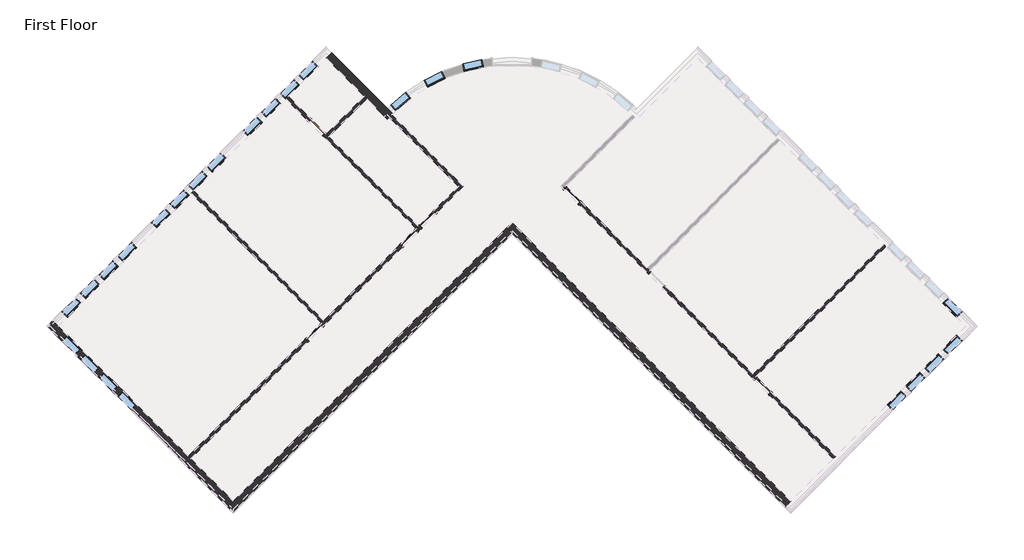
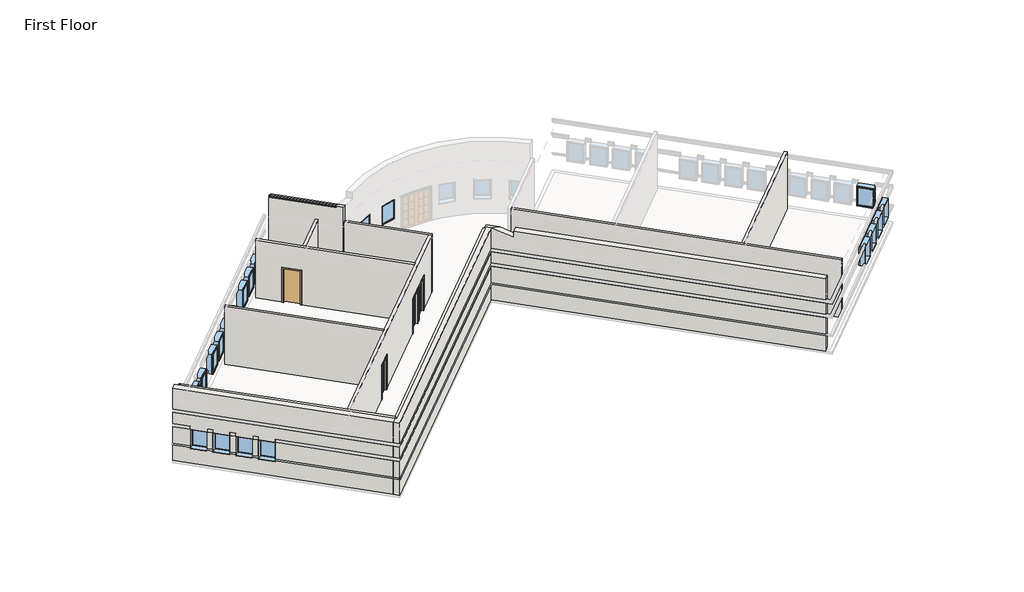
# One storey, part 1 of 4: 24 windows, 11 walls, 6 doors.
"""IFC4 building model written with IfcOpenShell, lengths in millimetres."""

from ifc_helpers import new_model, si_unit, frame, origin, origin_with_axes, place, context, project, spatial, polyline, circle_curve, ellipse_curve, outline, extrude, faceted_brep, transform, mapped, element, save
from ifc_brep_helpers import plane_surface, cylinder_surface, revolved_surface, advanced_brep
from components import door_f9494b7c, door_b81abb0e, door_5f5b55da, window_15c49d37, window_0e2fc6ce

model = new_model("IFC4")

# Units and contexts
model_context = context("Model", 3, world=origin())
ifc_project = project(units=[si_unit("LENGTHUNIT", "METRE", prefix="MILLI")], contexts=[model_context])

# Site, building, storey
site = spatial("IfcSite", under=ifc_project)
building = spatial("IfcBuilding", under=site)
storey = spatial("IfcBuildingStorey", under=building, Name="First Floor", Elevation=0.0)

# Doors
placement = place(None, origin())
door_shape = door_f9494b7c(model_context)
element("IfcDoor", 1, ObjectType="Single-Flush : 36\" x 84\"", at=placement, inside=storey, context=model_context, shape_type="MappedRepresentation", body=[
    mapped(door_shape, transform((-11920.1265343, 7875.9588464, 0.0), x_axis=(0.7071067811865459, -0.7071067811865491, 0.0), y_axis=(0.7071067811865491, 0.7071067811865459, 0.0), z_axis=(0.0, 0.0, 1.0))),
])
door_2_shape = door_b81abb0e(model_context)
element("IfcDoor", 2, ObjectType="Single-Glass 1 : 36\" x 84\"", at=placement, inside=storey, context=model_context, shape_type="MappedRepresentation", body=[
    mapped(door_2_shape, transform((-12027.7718255, -1647.4849877, 0.0), x_axis=(0.7071067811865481, 0.7071067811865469, 0.0), y_axis=(-0.7071067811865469, 0.7071067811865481, 0.0), z_axis=(0.0, 0.0, 1.0))),
])
element("IfcDoor", 3, ObjectType="Single-Glass 1 : 36\" x 84\"", at=placement, inside=storey, context=model_context, shape_type="MappedRepresentation", body=[
    mapped(door_2_shape, transform((-7643.2795567, 2737.0072811, 0.0), x_axis=(0.7071067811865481, 0.7071067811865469, 0.0), y_axis=(-0.7071067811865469, 0.7071067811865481, 0.0), z_axis=(0.0, 0.0, 1.0))),
])
door_3_shape = door_5f5b55da(model_context)
element("IfcDoor", 4, ObjectType="Single-Glass 1 : 36\" x 84\"", at=placement, inside=storey, context=model_context, shape_type="MappedRepresentation", body=[
    mapped(door_3_shape, transform((-6781.1749691, 3599.1118687, 0.0), x_axis=(-0.7071067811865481, -0.7071067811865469, 0.0), y_axis=(0.7071067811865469, -0.7071067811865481, 0.0), z_axis=(0.0, 0.0, 1.0))),
])
element("IfcDoor", 5, ObjectType="Single-Glass 1 : 36\" x 84\"", at=placement, inside=storey, context=model_context, shape_type="MappedRepresentation", body=[
    mapped(door_3_shape, transform((-66.4240191, 4710.6541283, 0.0), x_axis=(-0.7071067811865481, 0.7071067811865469, 0.0), y_axis=(-0.7071067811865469, -0.7071067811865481, 0.0), z_axis=(0.0, 0.0, 1.0))),
])
element("IfcDoor", 6, ObjectType="Single-Glass 1 : 36\" x 84\"", at=placement, inside=storey, context=model_context, shape_type="MappedRepresentation", body=[
    mapped(door_3_shape, transform((8770.3835686, -4126.1534594, 0.0), x_axis=(-0.7071067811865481, 0.7071067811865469, 0.0), y_axis=(-0.7071067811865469, -0.7071067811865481, 0.0), z_axis=(0.0, 0.0, 1.0))),
])

# Walls
element("IfcWall", 7, ObjectType="Exterior - Split Face and CMU on Mtl. Stud", at=placement, inside=storey, context=model_context, shape_type="Brep", body=[
    faceted_brep([(10063.54045, -9480.6311716, 0.0), (-2868.0283643, 3450.9376427, 0.0), (-2868.0283643, 3450.9376427, 4454.525), (-2369.6241496, 2952.533428, 4454.525), (-1756.7216693, 2339.6309478, 4165.6), (-1756.7216693, 2339.6309478, 4572.0), (10063.54045, -9480.6311716, 4572.0), (-3117.2304717, 3201.7355354, 0.0), (-2868.0283643, 2952.533428, 0.0), (9814.3383427, -9729.833279, 0.0), (9814.3383427, -9729.833279, 1016.0), (-2868.0283643, 2952.533428, 1016.0), (-2933.1352212, 3017.6402849, 1016.0), (-2933.1352212, 3017.6402849, 1085.85), (-2868.0283643, 2952.533428, 1085.85), (9814.3383427, -9729.833279, 1085.85), (9814.3383427, -9729.833279, 2133.6), (-2868.0283643, 2952.533428, 2133.6), (-2933.1352212, 3017.6402849, 2133.6), (-2933.1352212, 3017.6402849, 2336.8), (-2868.0283643, 2952.533428, 2336.8), (9814.3383427, -9729.833279, 2336.8), (9814.3383427, -9729.833279, 3048.0), (-2868.0283643, 2952.533428, 3048.0), (-2933.1352212, 3017.6402849, 3048.0), (-2933.1352212, 3017.6402849, 3251.2), (-2868.0283643, 2952.533428, 3251.2), (9814.3383427, -9729.833279, 3251.2), (9814.3383427, -9729.833279, 4572.0), (-2005.9237767, 2090.4288404, 4572.0), (-2005.9237767, 2090.4288404, 4165.6), (-2868.0283643, 2952.533428, 4572.0), (-3117.2304717, 3201.7355354, 4572.0), (9879.4451996, -9664.7264221, 0.0), (-3052.1236148, 3266.8423923, 0.0), (9879.4451996, -9664.7264221, 3251.2), (9879.4451996, -9664.7264221, 3048.0), (9879.4451996, -9664.7264221, 2336.8), (9879.4451996, -9664.7264221, 2133.6), (9879.4451996, -9664.7264221, 1085.85), (9879.4451996, -9664.7264221, 1016.0), (-2868.0283643, 3082.7471418, 1085.85), (-2868.0283643, 3082.7471418, 1016.0), (-2868.0283643, 3082.7471418, 2133.6), (-2868.0283643, 3082.7471418, 2336.8), (-2868.0283643, 3082.7471418, 3048.0), (-2868.0283643, 3082.7471418, 3251.2)], [[[0, 1, 2, 3, 4, 5, 6]], [[7, 8, 9, 10, 11, 12, 13, 14, 15, 16, 17, 18, 19, 20, 21, 22, 23, 24, 25, 26, 27, 28, 29, 30, 31, 32]], [[1, 0, 33, 34]], [[0, 6, 28, 27, 35, 36, 22, 21, 37, 38, 16, 15, 39, 40, 10, 9, 33]], [[9, 8, 7, 34, 33]], [[2, 1, 34, 7, 32]], [[28, 6, 5, 29]], [[29, 5, 4, 30]], [[30, 4, 3, 31]], [[2, 32, 31, 3]], [[13, 41, 39, 15, 14]], [[40, 42, 12, 11, 10]], [[41, 42, 40, 39]], [[42, 41, 13, 12]], [[38, 43, 18, 17, 16]], [[19, 44, 37, 21, 20]], [[44, 43, 38, 37]], [[43, 44, 19, 18]], [[36, 45, 24, 23, 22]], [[25, 46, 35, 27, 26]], [[46, 45, 36, 35]], [[45, 46, 25, 24]]]),
])
element("IfcWall", 8, ObjectType="Exterior - Split Face and CMU on Mtl. Stud", at=placement, inside=storey, context=model_context, shape_type="Brep", body=[
    faceted_brep([(-3117.2304717, 3201.7355354, 0.0), (-15799.5971786, -9480.6311716, 0.0), (-16048.799286, -9729.833279, 0.0), (-16048.799286, -9729.833279, 1016.0), (-15983.6924291, -9664.7264221, 1016.0), (-15983.6924291, -9664.7264221, 1085.85), (-16048.799286, -9729.833279, 1085.85), (-16048.799286, -9729.833279, 2133.6), (-15983.6924291, -9664.7264221, 2133.6), (-15983.6924291, -9664.7264221, 2336.8), (-16048.799286, -9729.833279, 2336.8), (-16048.799286, -9729.833279, 3048.0), (-15983.6924291, -9664.7264221, 3048.0), (-15983.6924291, -9664.7264221, 3251.2), (-16048.799286, -9729.833279, 3251.2), (-16048.799286, -9729.833279, 4572.0), (-15799.5971786, -9480.6311716, 4572.0), (-3135.1909839, 3183.7750231, 4572.0), (-3117.2304717, 3201.7355354, 4572.0), (-15799.5971786, -9979.0353863, 0.0), (-2868.0283643, 2952.533428, 0.0), (-2868.0283643, 2952.533428, 1016.0), (-15799.5971786, -9979.0353863, 1016.0), (-15799.5971786, -9979.0353863, 1085.85), (-2868.0283643, 2952.533428, 1085.85), (-2868.0283643, 2952.533428, 2133.6), (-15799.5971786, -9979.0353863, 2133.6), (-15799.5971786, -9979.0353863, 2336.8), (-2868.0283643, 2952.533428, 2336.8), (-2868.0283643, 2952.533428, 3048.0), (-15799.5971786, -9979.0353863, 3048.0), (-15799.5971786, -9979.0353863, 4572.0), (-15799.5971786, -9979.0353863, 3251.2), (-2868.0283643, 2952.533428, 3251.2), (-2868.0283643, 2952.533428, 4572.0), (-2885.9888765, 2934.5729158, 4572.0), (-2933.1352212, 3017.6402849, 0.0), (-15864.7040355, -9913.9285294, 0.0), (-2933.1352212, 3017.6402849, 3251.2), (-2933.1352212, 3017.6402849, 3048.0), (-2933.1352212, 3017.6402849, 2336.8), (-2933.1352212, 3017.6402849, 2133.6), (-2933.1352212, 3017.6402849, 1085.85), (-2933.1352212, 3017.6402849, 1016.0), (-15799.5971786, -9848.8216726, 1085.85), (-15799.5971786, -9848.8216726, 1016.0), (-15799.5971786, -9848.8216726, 2133.6), (-15799.5971786, -9848.8216726, 2336.8), (-15799.5971786, -9848.8216726, 3048.0), (-15799.5971786, -9848.8216726, 3251.2)], [[[0, 1, 2, 3, 4, 5, 6, 7, 8, 9, 10, 11, 12, 13, 14, 15, 16, 17, 18]], [[19, 20, 21, 22]], [[23, 24, 25, 26]], [[27, 28, 29, 30]], [[31, 32, 33, 34, 35]], [[2, 1, 0, 36, 37]], [[0, 18, 34, 33, 38, 39, 29, 28, 40, 41, 25, 24, 42, 43, 21, 20, 36]], [[20, 19, 37, 36]], [[2, 37, 19, 22, 3]], [[6, 23, 26, 7]], [[10, 27, 30, 11]], [[15, 14, 32, 31]], [[5, 44, 42, 24, 23, 6]], [[43, 45, 4, 3, 22, 21]], [[44, 45, 43, 42]], [[45, 44, 5, 4]], [[41, 46, 8, 7, 26, 25]], [[9, 47, 40, 28, 27, 10]], [[47, 46, 41, 40]], [[46, 47, 9, 8]], [[39, 48, 12, 11, 30, 29]], [[13, 49, 38, 33, 32, 14]], [[49, 48, 39, 38]], [[48, 49, 13, 12]], [[34, 18, 17, 16, 15, 31, 35]]]),
    faceted_brep([(-15799.5971786, -9480.6311716, 4689.475), (-3366.432579, 2952.533428, 4689.475), (-3260.200231, 3058.765776, 4639.3965909), (-15799.5971786, -9480.6311716, 4639.3965909), (-15874.9878772, -9556.0218702, 4653.9354839), (-3215.6511819, 2952.533428, 4653.9354839), (-15799.5971786, -9631.4125687, 4653.9354839)], [[[0, 1, 2, 3, 4]], [[2, 1, 5]], [[1, 0, 6, 5]], [[0, 4, 6]], [[6, 3, 2, 5]], [[3, 6, 4]]]),
])
element("IfcWall", 9, ObjectType="Exterior - Split Face and CMU on Mtl. Stud", at=placement, inside=storey, context=model_context, shape_type="Brep", body=[
    faceted_brep([(-23922.2388402, -1357.9895101, 4689.475), (-15799.5971786, -9480.6311716, 4689.475), (-15799.5971786, -9480.6311716, 4639.3965909), (-23922.2388402, -1357.9895101, 4639.3965909), (-23997.6295387, -1282.5988115, 4653.9354839), (-15874.9878772, -9556.0218702, 4653.9354839), (-24073.0202373, -1357.9895101, 4653.9354839)], [[[0, 1, 2, 3, 4]], [[2, 1, 5]], [[1, 0, 6, 5]], [[0, 4, 6]], [[6, 3, 2, 5]], [[3, 6, 4]]]),
    faceted_brep([(-15799.5971786, -9480.6311716, 0.0), (-17775.2535253, -7504.974825, 0.0), (-17885.2616628, -7394.9666875, 0.0), (-23922.2388402, -1357.9895101, 0.0), (-24171.4409475, -1108.7874027, 0.0), (-24171.4409475, -1108.7874027, 1016.0), (-24106.3340906, -1173.8942596, 1016.0), (-24106.3340906, -1173.8942596, 1085.85), (-24171.4409475, -1108.7874027, 1085.85), (-24171.4409475, -1108.7874027, 2133.6), (-24106.3340906, -1173.8942596, 2133.6), (-24106.3340906, -1173.8942596, 2336.8), (-24171.4409475, -1108.7874027, 2336.8), (-24171.4409475, -1108.7874027, 3048.0), (-24106.3340906, -1173.8942596, 3048.0), (-24106.3340906, -1173.8942596, 3251.2), (-24171.4409475, -1108.7874027, 3251.2), (-24171.4409475, -1108.7874027, 4572.0), (-23922.2388402, -1357.9895101, 4572.0), (-15799.5971786, -9480.6311716, 4572.0), (-20921.7107637, -4358.5175865, 2133.6), (-20921.7107637, -4358.5175865, 914.4), (-20275.132323, -5005.0960273, 914.4), (-20275.132323, -5005.0960273, 2133.6), (-21783.8153513, -3496.4129989, 2133.6), (-21783.8153513, -3496.4129989, 914.4), (-21137.2369106, -4142.9914396, 914.4), (-21137.2369106, -4142.9914396, 2133.6), (-22645.9199389, -2634.3084113, 2133.6), (-22645.9199389, -2634.3084113, 914.4), (-21999.3414982, -3280.886852, 914.4), (-21999.3414982, -3280.886852, 2133.6), (-23508.0245266, -1772.2038237, 2133.6), (-23508.0245266, -1772.2038237, 914.4), (-22861.4460859, -2418.7822644, 914.4), (-22861.4460859, -2418.7822644, 2133.6), (-24420.6430549, -1357.9895101, 0.0), (-16048.799286, -9729.833279, 0.0), (-16048.799286, -9729.833279, 1016.0), (-20524.3344303, -5254.2981346, 1016.0), (-20524.3344303, -5254.2981346, 914.4), (-21170.9128711, -4607.7196939, 914.4), (-21170.9128711, -4607.7196939, 1016.0), (-21386.439018, -4392.193547, 1016.0), (-21386.439018, -4392.193547, 914.4), (-22033.0174587, -3745.6151063, 914.4), (-22033.0174587, -3745.6151063, 1016.0), (-22248.5436056, -3530.0889594, 1016.0), (-22248.5436056, -3530.0889594, 914.4), (-22895.1220463, -2883.5105187, 914.4), (-22895.1220463, -2883.5105187, 1016.0), (-23110.6481932, -2667.9843718, 1016.0), (-23110.6481932, -2667.9843718, 914.4), (-23757.2266339, -2021.405931, 914.4), (-23757.2266339, -2021.405931, 1016.0), (-24420.6430549, -1357.9895101, 1016.0), (-21170.9128711, -4607.7196939, 2133.6), (-20524.3344303, -5254.2981346, 2133.6), (-20524.3344303, -5254.2981346, 2336.8), (-16048.799286, -9729.833279, 2336.8), (-16048.799286, -9729.833279, 3048.0), (-24420.6430549, -1357.9895101, 3048.0), (-24420.6430549, -1357.9895101, 2336.8), (-23757.2266339, -2021.405931, 2336.8), (-23757.2266339, -2021.405931, 2133.6), (-23110.6481932, -2667.9843718, 2133.6), (-23110.6481932, -2667.9843718, 2336.8), (-22895.1220463, -2883.5105187, 2336.8), (-22895.1220463, -2883.5105187, 2133.6), (-22248.5436056, -3530.0889594, 2133.6), (-22248.5436056, -3530.0889594, 2336.8), (-22033.0174587, -3745.6151063, 2336.8), (-22033.0174587, -3745.6151063, 2133.6), (-21386.439018, -4392.193547, 2133.6), (-21386.439018, -4392.193547, 2336.8), (-21170.9128711, -4607.7196939, 2336.8), (-20524.3344303, -5254.2981346, 1085.85), (-16048.799286, -9729.833279, 1085.85), (-16048.799286, -9729.833279, 2133.6), (-21170.9128711, -4607.7196939, 1085.85), (-21386.439018, -4392.193547, 1085.85), (-22033.0174587, -3745.6151063, 1085.85), (-22248.5436056, -3530.0889594, 1085.85), (-22895.1220463, -2883.5105187, 1085.85), (-23110.6481932, -2667.9843718, 1085.85), (-23757.2266339, -2021.405931, 1085.85), (-24420.6430549, -1357.9895101, 2133.6), (-24420.6430549, -1357.9895101, 1085.85), (-24420.6430549, -1357.9895101, 4572.0), (-24420.6430549, -1357.9895101, 3251.2), (-16048.799286, -9729.833279, 3251.2), (-16048.799286, -9729.833279, 4572.0), (-15983.6924291, -9664.7264221, 3251.2), (-15983.6924291, -9664.7264221, 3048.0), (-15983.6924291, -9664.7264221, 2336.8), (-15983.6924291, -9664.7264221, 2133.6), (-15983.6924291, -9664.7264221, 1085.85), (-15983.6924291, -9664.7264221, 1016.0), (-21105.8060142, -4542.612837, 2133.6), (-21105.8060142, -4542.612837, 1085.85), (-21105.8060142, -4542.612837, 1016.0), (-20459.2275735, -5189.1912777, 1016.0), (-20459.2275735, -5189.1912777, 1085.85), (-20459.2275735, -5189.1912777, 2133.6), (-21967.9106018, -3680.5082494, 2133.6), (-21967.9106018, -3680.5082494, 1085.85), (-21967.9106018, -3680.5082494, 1016.0), (-21321.3321611, -4327.0866901, 1016.0), (-21321.3321611, -4327.0866901, 1085.85), (-21321.3321611, -4327.0866901, 2133.6), (-22830.0151894, -2818.4036618, 2133.6), (-22830.0151894, -2818.4036618, 1085.85), (-22830.0151894, -2818.4036618, 1016.0), (-22183.4367487, -3464.9821025, 1016.0), (-22183.4367487, -3464.9821025, 1085.85), (-22183.4367487, -3464.9821025, 2133.6), (-23692.119777, -1956.2990742, 2133.6), (-23692.119777, -1956.2990742, 1085.85), (-23692.119777, -1956.2990742, 1016.0), (-23045.5413363, -2602.8775149, 1016.0), (-23045.5413363, -2602.8775149, 1085.85), (-23045.5413363, -2602.8775149, 2133.6), (-24290.4293411, -1357.9895101, 1085.85), (-24290.4293411, -1357.9895101, 1016.0), (-20459.2275735, -5189.1912777, 2133.6), (-20459.2275735, -5189.1912777, 2336.8), (-21105.8060142, -4542.612837, 2133.6), (-21105.8060142, -4542.612837, 2336.8), (-21321.3321611, -4327.0866901, 2336.8), (-21321.3321611, -4327.0866901, 2133.6), (-21967.9106018, -3680.5082494, 2133.6), (-21967.9106018, -3680.5082494, 2336.8), (-22183.4367487, -3464.9821025, 2336.8), (-22183.4367487, -3464.9821025, 2133.6), (-22830.0151894, -2818.4036618, 2133.6), (-22830.0151894, -2818.4036618, 2336.8), (-23045.5413363, -2602.8775149, 2336.8), (-23045.5413363, -2602.8775149, 2133.6), (-23692.119777, -1956.2990742, 2133.6), (-23692.119777, -1956.2990742, 2336.8), (-24290.4293411, -1357.9895101, 2133.6), (-24290.4293411, -1357.9895101, 2336.8), (-24290.4293411, -1357.9895101, 3048.0), (-24290.4293411, -1357.9895101, 3251.2)], [[[0, 1, 2, 3, 4, 5, 6, 7, 8, 9, 10, 11, 12, 13, 14, 15, 16, 17, 18, 19], [20, 21, 22, 23], [24, 25, 26, 27], [28, 29, 30, 31], [32, 33, 34, 35]], [[36, 37, 38, 39, 40, 41, 42, 43, 44, 45, 46, 47, 48, 49, 50, 51, 52, 53, 54, 55]], [[56, 57, 58, 59, 60, 61, 62, 63, 64, 65, 66, 67, 68, 69, 70, 71, 72, 73, 74, 75]], [[57, 76, 77, 78]], [[79, 56, 73, 80]], [[81, 72, 69, 82]], [[83, 68, 65, 84]], [[85, 64, 86, 87]], [[88, 89, 90, 91]], [[37, 0, 19, 91, 90, 92, 93, 60, 59, 94, 95, 78, 77, 96, 97, 38]], [[4, 36, 55, 5]], [[8, 87, 86, 9]], [[12, 62, 61, 13]], [[17, 16, 89, 88]], [[4, 3, 2, 1, 0, 37, 36]], [[21, 20, 98, 56, 79, 99, 100, 42, 41]], [[22, 21, 41, 40]], [[23, 22, 40, 39, 101, 102, 76, 57, 103]], [[20, 23, 103, 57, 56, 98]], [[25, 24, 104, 72, 81, 105, 106, 46, 45]], [[26, 25, 45, 44]], [[27, 26, 44, 43, 107, 108, 80, 73, 109]], [[24, 27, 109, 73, 72, 104]], [[29, 28, 110, 68, 83, 111, 112, 50, 49]], [[30, 29, 49, 48]], [[31, 30, 48, 47, 113, 114, 82, 69, 115]], [[28, 31, 115, 69, 68, 110]], [[33, 32, 116, 64, 85, 117, 118, 54, 53]], [[34, 33, 53, 52]], [[35, 34, 52, 51, 119, 120, 84, 65, 121]], [[32, 35, 121, 65, 64, 116]], [[102, 96, 77, 76]], [[97, 101, 39, 38]], [[96, 102, 101, 97]], [[108, 99, 79, 80]], [[100, 107, 43, 42]], [[99, 108, 107, 100]], [[114, 105, 81, 82]], [[106, 113, 47, 46]], [[105, 114, 113, 106]], [[120, 111, 83, 84]], [[112, 119, 51, 50]], [[111, 120, 119, 112]], [[122, 117, 85, 87, 8, 7]], [[118, 123, 6, 5, 55, 54]], [[117, 122, 123, 118]], [[123, 122, 7, 6]], [[124, 57, 78, 95]], [[58, 125, 94, 59]], [[57, 124, 125, 58]], [[125, 124, 95, 94]], [[126, 56, 75, 127]], [[128, 74, 73, 129]], [[56, 126, 129, 73]], [[126, 127, 128, 129]], [[127, 75, 74, 128]], [[130, 72, 71, 131]], [[132, 70, 69, 133]], [[72, 130, 133, 69]], [[130, 131, 132, 133]], [[131, 71, 70, 132]], [[134, 68, 67, 135]], [[136, 66, 65, 137]], [[68, 134, 137, 65]], [[134, 135, 136, 137]], [[135, 67, 66, 136]], [[138, 64, 63, 139]], [[64, 138, 140, 10, 9, 86]], [[138, 139, 141, 140]], [[139, 63, 62, 12, 11, 141]], [[140, 141, 11, 10]], [[93, 142, 14, 13, 61, 60]], [[15, 143, 92, 90, 89, 16]], [[143, 142, 93, 92]], [[142, 143, 15, 14]], [[19, 18, 17, 88, 91]]]),
])
element("IfcWall", 10, ObjectType="Exterior - Split Face and CMU on Mtl. Stud", at=placement, inside=storey, context=model_context, shape_type="AdvancedBrep", body=[
    advanced_brep(
    [(-8658.0122729, 8244.1131219, 0.0), (-8658.0122729, 8244.1131219, 4689.475), (-11489.0742405, 11075.1750895, 4689.475), (-11489.0742405, 11075.1750895, 4639.3965909), (-8911.6883314, 8497.7891804, 4639.3965909), (-8911.6883314, 8497.7891804, 4572.0), (-11489.0742405, 11075.1750895, 4572.0), (-11489.0742405, 11075.1750895, 0.0), (-9728.9440408, 9315.0448898, 0.0), (-9618.9359033, 9205.0367523, 0.0), (-8413.2817722, 8497.7868359, 4572.0), (-8413.2817722, 8497.7868359, 0.0), (-8662.486224, 8746.9912878, 0.0), (-11239.8721332, 11324.3771969, 0.0), (-11239.8721332, 11324.3771969, 1016.0), (-8662.486224, 8746.9912878, 1016.0), (-8597.3787742, 8681.8838379, 1016.0), (-8597.3787742, 8681.8838379, 1085.85), (-8662.486224, 8746.9912878, 1085.85), (-11239.8721332, 11324.3771969, 1085.85), (-11239.8721332, 11324.3771969, 2133.6), (-8662.486224, 8746.9912878, 2133.6), (-8597.3787742, 8681.8838379, 2133.6), (-8597.3787742, 8681.8838379, 2336.8), (-8662.486224, 8746.9912878, 2336.8), (-11239.8721332, 11324.3771969, 2336.8), (-11239.8721332, 11324.3771969, 3048.0), (-8662.486224, 8746.9912878, 3048.0), (-8597.3787742, 8681.8838379, 3048.0), (-8597.3787742, 8681.8838379, 3251.2), (-8662.486224, 8746.9912878, 3251.2), (-11239.8721332, 11324.3771969, 3251.2), (-11239.8721332, 11324.3771969, 4572.0), (-8662.486224, 8746.9912878, 4572.0), (-11304.9789901, 11259.27034, 3251.2), (-11304.9789901, 11259.27034, 3048.0), (-11304.9789901, 11259.27034, 2336.8), (-11304.9789901, 11259.27034, 2133.6), (-11304.9789901, 11259.27034, 1085.85), (-11304.9789901, 11259.27034, 1016.0), (-11413.683542, 11150.5657881, 4653.9354839), (-8557.7157352, 8350.8336041, 0.0), (-8449.0111375, 8462.1452813, 0.0), (-8836.2976328, 8573.179879, 4653.9354839), (-8662.3967205, 8616.6880705, 1085.85), (-8662.3967205, 8616.6880705, 1016.0), (-8662.3967205, 8616.6880705, 2336.8), (-8662.3967205, 8616.6880705, 2133.6), (-8662.3967205, 8616.6880705, 3251.2), (-8662.3967205, 8616.6880705, 3048.0)],
    [
        (0, 1),
        (1, 2),
        (2, 3),
        (3, 4),
        (4, 5),
        (5, 6),
        (6, 7),
        (7, 8),
        (8, 9),
        (9, 0),
        (10, 11),
        (11, 12),
        (12, 13),
        (13, 14),
        (14, 15),
        (15, 16),
        (16, 17),
        (17, 18),
        (18, 19),
        (19, 20),
        (20, 21),
        (21, 22),
        (22, 23),
        (23, 24),
        (24, 25),
        (25, 26),
        (26, 27),
        (27, 28),
        (28, 29),
        (29, 30),
        (30, 31),
        (31, 32),
        (32, 33),
        (33, 10),
        (13, 7),
        (6, 32),
        (31, 34),
        (34, 35),
        (35, 26),
        (25, 36),
        (36, 37),
        (37, 20),
        (19, 38),
        (38, 39),
        (39, 14),
        (2, 40),
        (40, 3),
        (0, 41, circle_curve(frame((-2868.0283643, 2903.1420194, 0.0), z_axis=(0.0, 0.0, -1.0), x_axis=(1.0, 0.0, 0.0)), 7877.175)),
        (41, 42, circle_curve(frame((-2868.0283643, 2903.1420194, 0.0), z_axis=(0.0, 0.0, -1.0), x_axis=(1.0, 0.0, 0.0)), 7877.175)),
        (42, 11, circle_curve(frame((-2868.0283643, 2903.1420194, 0.0), z_axis=(0.0, 0.0, -1.0), x_axis=(1.0, 0.0, 0.0)), 7877.175)),
        (10, 1, ellipse_curve(frame((-2868.0283643, 2903.1420194, 4583.6416667), z_axis=(0.2236067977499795, 0.22360679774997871, 0.9486832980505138), x_axis=(0.6708203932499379, 0.6708203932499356, -0.31622776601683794)), 8303.2715092, 7877.175)),
        (33, 43),
        (43, 40),
        (44, 45),
        (45, 39),
        (38, 44),
        (17, 44, circle_curve(frame((-2868.0283643, 2903.1420194, 1085.85), z_axis=(0.0, 0.0, 1.0), x_axis=(-0.7040995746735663, 0.7101012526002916, 0.0)), 8137.525)),
        (45, 16, circle_curve(frame((-2868.0283643, 2903.1420194, 1016.0), z_axis=(0.0, 0.0, -1.0), x_axis=(-0.7040995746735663, 0.7101012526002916, 0.0)), 8137.525)),
        (46, 47),
        (47, 37),
        (36, 46),
        (47, 22, circle_curve(frame((-2868.0283643, 2903.1420194, 2133.6), z_axis=(0.0, 0.0, -1.0), x_axis=(-0.7120553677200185, 0.70212331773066, 0.0)), 8137.525)),
        (46, 23, circle_curve(frame((-2868.0283643, 2903.1420194, 2336.8), z_axis=(0.0, 0.0, -1.0), x_axis=(-0.7120553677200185, 0.70212331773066, 0.0)), 8137.525)),
        (48, 49),
        (49, 35),
        (34, 48),
        (49, 28, circle_curve(frame((-2868.0283643, 2903.1420194, 3048.0), z_axis=(0.0, 0.0, -1.0), x_axis=(-0.7120553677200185, 0.70212331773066, 0.0)), 8137.525)),
        (48, 29, circle_curve(frame((-2868.0283643, 2903.1420194, 3251.2), z_axis=(0.0, 0.0, -1.0), x_axis=(-0.7120553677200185, 0.70212331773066, 0.0)), 8137.525)),
        (5, 33),
        (4, 43),
    ],
    [
        plane_surface(frame((-11738.2763479, 11324.3771969, 0.0), z_axis=(-0.7071067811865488, -0.7071067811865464, 0.0), x_axis=(0.7071067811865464, -0.7071067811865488, 0.0))),
        plane_surface(frame((-11489.0742405, 11573.5793042, 0.0), z_axis=(0.7071067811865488, 0.7071067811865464, 0.0), x_axis=(-0.7071067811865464, 0.7071067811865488, 0.0))),
        plane_surface(frame((-24171.4409475, -1607.1916175, 0.0), z_axis=(-0.7071067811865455, 0.7071067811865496, 0.0), x_axis=(0.7071067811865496, 0.7071067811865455, 0.0))),
        revolved_surface(polyline([(5009.146635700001, 2903.1420194, 0.0), (5009.146635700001, 2903.1420194, 7209.366666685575)]), (-2868.0283643, 2903.1420194, 0.0), (0.0, 0.0, -1.0)),
        plane_surface(frame((-1143.8191891, 2952.533428, 4165.6), z_axis=(0.2236067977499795, 0.22360679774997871, 0.9486832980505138), x_axis=(-0.7071067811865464, 0.7071067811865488, 0.0))),
        plane_surface(frame((-11364.4731869, 11448.9782506, 0.0), z_axis=(0.0, 0.0, -1.0), x_axis=(-0.7071067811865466, 0.7071067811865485, 0.0))),
        plane_surface(frame((-11489.0742405, 11443.3655905, 1016.0), z_axis=(0.7071067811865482, 0.7071067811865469, 0.0), x_axis=(0.7071067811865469, -0.7071067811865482, 0.0))),
        plane_surface(frame((-2868.0283643, 2903.1420194, 1085.85), z_axis=(0.0, 0.0, -1.0), x_axis=(-0.7040995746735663, 0.7101012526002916, 0.0))),
        plane_surface(frame((-2868.0283643, 2903.1420194, 1016.0), z_axis=(0.0, 0.0, 1.0), x_axis=(-0.7040995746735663, 0.7101012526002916, 0.0))),
        cylinder_surface(frame((-2868.0283643, 2903.1420194, 1016.0), z_axis=(0.0, 0.0, -1.0), x_axis=(-0.7040995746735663, 0.7101012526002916, 0.0)), 8137.525),
        plane_surface(frame((-11489.0742405, 11443.3655905, 2133.6), z_axis=(0.7071067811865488, 0.7071067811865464, 0.0), x_axis=(0.7071067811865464, -0.7071067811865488, 0.0))),
        plane_surface(frame((-2868.0283643, 2903.1420194, 2133.6), z_axis=(0.0, 0.0, 1.0), x_axis=(-0.7120553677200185, 0.70212331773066, 0.0))),
        cylinder_surface(frame((-2868.0283643, 2903.1420194, 2133.6), z_axis=(0.0, 0.0, -1.0), x_axis=(-0.7120553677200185, 0.70212331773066, 0.0)), 8137.525),
        plane_surface(frame((-2868.0283643, 2903.1420194, 2336.8), z_axis=(0.0, 0.0, -1.0), x_axis=(-0.7120553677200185, 0.70212331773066, 0.0))),
        plane_surface(frame((-11489.0742405, 11443.3655905, 3048.0), z_axis=(0.7071067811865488, 0.7071067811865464, 0.0), x_axis=(0.7071067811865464, -0.7071067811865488, 0.0))),
        plane_surface(frame((-2868.0283643, 2903.1420194, 3048.0), z_axis=(0.0, 0.0, 1.0), x_axis=(-0.7120553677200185, 0.70212331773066, 0.0))),
        cylinder_surface(frame((-2868.0283643, 2903.1420194, 3048.0), z_axis=(0.0, 0.0, -1.0), x_axis=(-0.7120553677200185, 0.70212331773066, 0.0)), 8137.525),
        plane_surface(frame((-2868.0283643, 2903.1420194, 3251.2), z_axis=(0.0, 0.0, -1.0), x_axis=(-0.7120553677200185, 0.70212331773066, 0.0))),
        plane_surface(frame((-24438.6035671, -1340.0289979, 4572.0), z_axis=(0.0, 0.0, 1.0), x_axis=(0.7071067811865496, 0.7071067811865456, 0.0))),
        plane_surface(frame((-8662.486224, 8746.9912878, 4185.7445793), z_axis=(-0.7071067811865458, 0.7071067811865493, 0.0), x_axis=(0.7071067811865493, 0.7071067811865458, 0.0))),
        plane_surface(frame((-11489.0742405, 11034.763937, 4635.5), z_axis=(0.0955394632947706, 0.09553946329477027, -0.9908301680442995), x_axis=(0.7071067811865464, -0.7071067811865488, 0.0))),
    ],
    [
        (0, [[1, 2, 3, 4, 5, 6, 7, 8, 9, 10]]),
        (1, [[11, 12, 13, 14, 15, 16, 17, 18, 19, 20, 21, 22, 23, 24, 25, 26, 27, 28, 29, 30, 31, 32, 33, 34]]),
        (2, [[35, -7, 36, -32, 37, 38, 39, -26, 40, 41, 42, -20, 43, 44, 45, -14]]),
        (2, [[-3, 46, 47]]),
        (3, [[48, 49, 50, -11, 51, -1]]),
        (4, [[-2, -51, -34, 52, 53, -46]]),
        (5, [[-50, -49, -48, -10, -9, -8, -35, -13, -12]]),
        (6, [[54, 55, -44, 56]]),
        (7, [[57, -56, -43, -19, -18]]),
        (8, [[-55, 58, -16, -15, -45]]),
        (9, [[-54, -57, -17, -58]]),
        (10, [[59, 60, -41, 61]]),
        (11, [[-60, 62, -22, -21, -42]]),
        (12, [[-59, 63, -23, -62]]),
        (13, [[-63, -61, -40, -25, -24]]),
        (14, [[64, 65, -38, 66]]),
        (15, [[-65, 67, -28, -27, -39]]),
        (16, [[-64, 68, -29, -67]]),
        (17, [[-68, -66, -37, -31, -30]]),
        (18, [[69, -33, -36, -6]]),
        (19, [[70, -52, -69, -5]]),
        (20, [[-70, -4, -47, -53]]),
    ],
),
])
element("IfcWall", 11, ObjectType="Interior - 6 1/8\" Partition (2-hr)", at=placement, inside=storey, context=model_context, shape_type="Brep", body=[
    faceted_brep([(-7374.9944051, 3115.3005702, 0.0), (-7322.2354004, 3168.0595749, 0.0), (-7212.2272629, 3278.0677124, 0.0), (-7159.4682582, 3330.8267171, 0.0), (-7049.4601207, 3220.8185796, 0.0), (-7264.9862676, 3005.2924327, 0.0), (-12296.0569771, -2025.7782768, 0.0), (-17775.2535253, -7504.974825, 0.0), (-17885.2616628, -7394.9666875, 0.0), (-12406.0651146, -1915.7701393, 0.0), (-7911.5647083, 2358.713992, 0.0), (-11649.4785364, -1379.1998361, 0.0), (-11759.4866739, -1269.1916986, 0.0), (-11706.7276692, -1216.4326939, 0.0), (-11596.7195317, -1106.4245564, 0.0), (-8021.5728458, 2468.7221295, 0.0), (-6512.8898174, 3977.4051578, 0.0), (-5348.5885532, 5141.7064221, 0.0), (-5238.5804157, 5031.6982846, 0.0), (-6402.88168, 3867.3970204, 0.0), (-17775.2535253, -7504.974825, 3657.6), (-5238.5804157, 5031.6982846, 3657.6), (-5348.5885532, 5141.7064221, 3657.6), (-7212.2272629, 3278.0677124, 3657.6), (-7322.2354004, 3168.0595749, 3657.6), (-11596.7195317, -1106.4245564, 3657.6), (-11706.7276692, -1216.4326939, 3657.6), (-17885.2616628, -7394.9666875, 3657.6), (-7049.4601207, 3220.8185796, 2133.6), (-6402.88168, 3867.3970204, 2133.6), (-12296.0569771, -2025.7782768, 2133.6), (-11649.4785364, -1379.1998361, 2133.6), (-7911.5647083, 2358.713992, 2133.6), (-7264.9862676, 3005.2924327, 2133.6), (-7159.4682582, 3330.8267171, 2133.6), (-7374.9944051, 3115.3005702, 2133.6), (-8021.5728458, 2468.7221295, 2133.6), (-11759.4866739, -1269.1916986, 2133.6), (-12406.0651146, -1915.7701393, 2133.6), (-6512.8898174, 3977.4051578, 2133.6)], [[[0, 1, 2, 3, 4, 5]], [[6, 7, 8, 9]], [[10, 11, 12, 13, 14, 15]], [[16, 17, 18, 19]], [[20, 21, 22, 23, 24, 25, 26, 27]], [[5, 4, 28, 29, 19, 18, 21, 20, 7, 6, 30, 31, 11, 10, 32, 33]], [[34, 3, 2, 1, 0, 35, 36, 15, 14, 13, 12, 37, 38, 9, 8, 27, 26, 25, 24, 23, 22, 17, 16, 39]], [[7, 20, 27, 8]], [[21, 18, 17, 22]], [[37, 12, 11, 31]], [[38, 37, 31, 30]], [[9, 38, 30, 6]], [[35, 0, 5, 33]], [[36, 35, 33, 32]], [[15, 36, 32, 10]], [[28, 4, 3, 34]], [[29, 28, 34, 39]], [[19, 29, 39, 16]]]),
])
element("IfcWall", 12, ObjectType="Interior - 6 1/8\" Partition (2-hr)", at=placement, inside=storey, context=model_context, shape_type="Brep", body=[
    faceted_brep([(-7322.2354004, 3168.0595749, 0.0), (-11651.8413827, 7497.6655573, 0.0), (-11541.8332452, 7607.6736948, 0.0), (-11489.0742405, 7554.9146901, 0.0), (-11379.066103, 7444.9065526, 0.0), (-7212.2272629, 3278.0677124, 0.0), (-12298.4198234, 8144.243998, 0.0), (-13359.2125777, 9205.0367523, 0.0), (-13249.2044403, 9315.0448898, 0.0), (-12188.411686, 8254.2521355, 0.0), (-7212.2272629, 3278.0677124, 3657.6), (-11379.066103, 7444.9065526, 3657.6), (-11489.0742405, 7554.9146901, 3657.6), (-13249.2044403, 9315.0448898, 3657.6), (-13359.2125777, 9205.0367523, 3657.6), (-7322.2354004, 3168.0595749, 3657.6), (-11541.8332452, 7607.6736948, 2133.6), (-12188.411686, 8254.2521355, 2133.6), (-11651.8413827, 7497.6655573, 2133.6), (-12298.4198234, 8144.243998, 2133.6)], [[[0, 1, 2, 3, 4, 5]], [[6, 7, 8, 9]], [[10, 11, 12, 13, 14, 15]], [[5, 4, 3, 2, 16, 17, 9, 8, 13, 12, 11, 10]], [[18, 1, 0, 15, 14, 7, 6, 19]], [[13, 8, 7, 14]], [[5, 10, 15, 0]], [[16, 2, 1, 18]], [[17, 16, 18, 19]], [[9, 17, 19, 6]]]),
])
element("IfcWall", 13, ObjectType="Interior - 6 1/8\" Partition (2-hr)", at=placement, inside=storey, context=model_context, shape_type="AdvancedBrep", body=[
    advanced_brep(
    [(-5128.5722782, 5141.7064221, 0.0), (-8449.0111375, 8462.1452813, 0.0), (-8449.0111375, 8462.1452813, 3657.6), (-5128.5722782, 5141.7064221, 3657.6), (-5238.5804157, 5031.6982846, 0.0), (-5238.5804157, 5031.6982846, 3657.6), (-5348.5885532, 5141.7064221, 3657.6), (-8557.7157352, 8350.8336041, 3657.6), (-8557.7157352, 8350.8336041, 0.0), (-5348.5885532, 5141.7064221, 0.0)],
    [
        (0, 1),
        (1, 2),
        (2, 3),
        (3, 0),
        (4, 5),
        (5, 6),
        (6, 7),
        (7, 8),
        (8, 9),
        (9, 4),
        (0, 4),
        (8, 1, circle_curve(frame((-2868.0283643, 2903.1420194, 0.0), z_axis=(0.0, 0.0, -1.0), x_axis=(1.0, 0.0, 0.0)), 7877.175)),
        (2, 7, circle_curve(frame((-2868.0283643, 2903.1420194, 3657.6), z_axis=(0.0, 0.0, 1.0), x_axis=(1.0, 0.0, 0.0)), 7877.175)),
        (5, 3),
    ],
    [
        plane_surface(frame((-5183.576347, 5196.7104908, 0.0), z_axis=(0.7071067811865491, 0.7071067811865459, 0.0), x_axis=(-0.7071067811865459, 0.7071067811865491, 0.0))),
        plane_surface(frame((-5293.5844845, 5086.7023533, 0.0), z_axis=(-0.7071067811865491, -0.7071067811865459, 0.0), x_axis=(0.7071067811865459, -0.7071067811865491, 0.0))),
        plane_surface(frame((-5183.576347, 5196.7104908, 0.0), z_axis=(0.0, 0.0, -1.0), x_axis=(-0.707106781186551, -0.7071067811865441, 0.0))),
        plane_surface(frame((-8573.2406241, 8586.374768, 3657.6), z_axis=(0.0, 0.0, 1.0), x_axis=(-0.707106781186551, -0.7071067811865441, 0.0))),
        plane_surface(frame((-17899.854579, -7629.5758786, 0.0), z_axis=(0.7071067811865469, -0.7071067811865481, 0.0), x_axis=(0.7071067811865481, 0.7071067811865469, 0.0))),
        cylinder_surface(frame((-2868.0283643, 2903.1420194, 0.0), z_axis=(0.0, 0.0, -1.0), x_axis=(1.0, 0.0, 0.0)), 7877.175),
    ],
    [
        (0, [[1, 2, 3, 4]]),
        (1, [[5, 6, 7, 8, 9, 10]]),
        (2, [[-1, 11, -10, -9, 12]]),
        (3, [[-3, 13, -7, -6, 14]]),
        (4, [[-4, -14, -5, -11]]),
        (5, [[-2, -12, -8, -13]]),
    ],
),
])
element("IfcWall", 14, ObjectType="Interior - 6 1/8\" Partition (2-hr)", at=placement, inside=storey, context=model_context, shape_type="SweptSolid", body=[
    extrude(outline(polyline([(-11489.0742405, 7554.9146901), (-9728.9440408, 9315.0448898), (-9618.9359033, 9205.0367523), (-11379.066103, 7444.9065526), (-11489.0742405, 7554.9146901)])), origin_with_axes(), (0.0, 0.0, 1.0), 3657.6),
])
element("IfcWall", 15, ObjectType="Interior - 6 1/8\" Partition (2-hr)", at=placement, inside=storey, context=model_context, shape_type="SweptSolid", body=[
    extrude(outline(polyline([(-17633.6967091, 4930.552621), (-11596.7195317, -1106.4245564), (-11706.7276692, -1216.4326939), (-17743.7048466, 4820.5444835), (-17633.6967091, 4930.552621)])), origin_with_axes(), (0.0, 0.0, 1.0), 3657.6),
])
element("IfcWall", 16, ObjectType="Interior - 6 1/8\" Partition (2-hr)", at=placement, inside=storey, context=model_context, shape_type="Brep", body=[
    faceted_brep([(-387.4681754, 5141.7064221, 0.0), (-334.7091707, 5088.9474174, 0.0), (-444.7173082, 4978.9392799, 0.0), (-497.4763129, 5031.6982846, 0.0), (311.86927, 4442.3689766, 0.0), (3415.9058564, 1338.3323903, 0.0), (3525.9139939, 1228.3242528, 0.0), (3578.6729986, 1175.5652481, 0.0), (3468.6648611, 1065.5571106, 0.0), (201.8611325, 4332.3608392, 0.0), (4225.2514393, 528.9868073, 0.0), (8339.3312748, -3585.0930281, 0.0), (8449.3394123, -3695.1011656, 0.0), (8502.098417, -3747.8601703, 0.0), (8392.0902795, -3857.8683078, 0.0), (4115.2433018, 418.9786699, 0.0), (9148.6768577, -4394.438611, 0.0), (12149.2049342, -7394.9666875, 0.0), (12039.1967967, -7504.974825, 0.0), (9038.6687202, -4504.4467485, 0.0), (12149.2049342, -7394.9666875, 3657.6), (8449.3394123, -3695.1011656, 3657.6), (8339.3312748, -3585.0930281, 3657.6), (3525.9139939, 1228.3242528, 3657.6), (3415.9058564, 1338.3323903, 3657.6), (-387.4681754, 5141.7064221, 3657.6), (-497.4763129, 5031.6982846, 3657.6), (12039.1967967, -7504.974825, 3657.6), (8502.098417, -3747.8601703, 2133.6), (4225.2514393, 528.9868073, 2133.6), (3578.6729986, 1175.5652481, 2133.6), (311.86927, 4442.3689766, 2133.6), (-334.7091707, 5088.9474174, 2133.6), (9148.6768577, -4394.438611, 2133.6), (8392.0902795, -3857.8683078, 2133.6), (9038.6687202, -4504.4467485, 2133.6), (-444.7173082, 4978.9392799, 2133.6), (201.8611325, 4332.3608392, 2133.6), (3468.6648611, 1065.5571106, 2133.6), (4115.2433018, 418.9786699, 2133.6)], [[[0, 1, 2, 3]], [[4, 5, 6, 7, 8, 9]], [[10, 11, 12, 13, 14, 15]], [[16, 17, 18, 19]], [[20, 21, 22, 23, 24, 25, 26, 27]], [[28, 13, 12, 11, 10, 29, 30, 7, 6, 5, 4, 31, 32, 1, 0, 25, 24, 23, 22, 21, 20, 17, 16, 33]], [[15, 14, 34, 35, 19, 18, 27, 26, 3, 2, 36, 37, 9, 8, 38, 39]], [[25, 0, 3, 26]], [[17, 20, 27, 18]], [[36, 2, 1, 32]], [[37, 36, 32, 31]], [[9, 37, 31, 4]], [[38, 8, 7, 30]], [[39, 38, 30, 29]], [[15, 39, 29, 10]], [[34, 14, 13, 28]], [[35, 34, 28, 33]], [[19, 35, 33, 16]]]),
])
element("IfcWall", 17, ObjectType="Interior - 6 1/8\" Partition (2-hr)", at=placement, inside=storey, context=model_context, shape_type="SweptSolid", body=[
    extrude(outline(polyline([(8339.3312748, -3585.0930281), (14376.3084522, 2451.8841493), (14486.3165897, 2341.8760118), (8449.3394123, -3695.1011656), (8339.3312748, -3585.0930281)])), origin_with_axes(), (0.0, 0.0, 1.0), 3657.6),
])

# Windows
window_shape = window_15c49d37(model_context)
element("IfcWindow", 18, ObjectType="Fixed : 36\" x 48\"", at=placement, inside=storey, context=model_context, shape_type="MappedRepresentation", body=[
    mapped(window_shape, transform((-23336.2771283, -522.8256908, 0.0), x_axis=(-0.7071067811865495, -0.7071067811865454, 0.0), y_axis=(0.7071067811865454, -0.7071067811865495, 0.0), z_axis=(0.0, 0.0, 1.0))),
])
element("IfcWindow", 19, ObjectType="Fixed : 36\" x 48\"", at=placement, inside=storey, context=model_context, shape_type="MappedRepresentation", body=[
    mapped(window_shape, transform((-8066.2237793, 9037.6928325, 0.0), x_axis=(-0.7659856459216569, -0.6428576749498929, 0.0), y_axis=(0.6428576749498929, -0.7659856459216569, 0.0), z_axis=(0.0, 0.0, 1.0))),
])
element("IfcWindow", 20, ObjectType="Fixed : 36\" x 48\"", at=placement, inside=storey, context=model_context, shape_type="MappedRepresentation", body=[
    mapped(window_shape, transform((-22474.1725406, 339.2788968, 0.0), x_axis=(-0.7071067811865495, -0.7071067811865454, 0.0), y_axis=(0.7071067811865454, -0.7071067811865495, 0.0), z_axis=(0.0, 0.0, 1.0))),
])
element("IfcWindow", 21, ObjectType="Fixed : 36\" x 48\"", at=placement, inside=storey, context=model_context, shape_type="MappedRepresentation", body=[
    mapped(window_shape, transform((-21612.067953, 1201.3834844, 0.0), x_axis=(-0.7071067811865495, -0.7071067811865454, 0.0), y_axis=(0.7071067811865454, -0.7071067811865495, 0.0), z_axis=(0.0, 0.0, 1.0))),
])
element("IfcWindow", 22, ObjectType="Fixed : 36\" x 48\"", at=placement, inside=storey, context=model_context, shape_type="MappedRepresentation", body=[
    mapped(window_shape, transform((-20749.9633654, 2063.488072, 0.0), x_axis=(-0.7071067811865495, -0.7071067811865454, 0.0), y_axis=(0.7071067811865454, -0.7071067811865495, 0.0), z_axis=(0.0, 0.0, 1.0))),
])
element("IfcWindow", 23, ObjectType="Fixed : 36\" x 48\"", at=placement, inside=storey, context=model_context, shape_type="MappedRepresentation", body=[
    mapped(window_shape, transform((-4714.6266038, 10728.998151, 0.0), x_axis=(-0.9743494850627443, -0.2250401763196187, 0.0), y_axis=(0.2250401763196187, -0.9743494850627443, 0.0), z_axis=(0.0, 0.0, 1.0))),
])
element("IfcWindow", 24, ObjectType="Fixed : 36\" x 48\"", at=placement, inside=storey, context=model_context, shape_type="MappedRepresentation", body=[
    mapped(window_shape, transform((-6490.5147795, 10081.6893252, 0.0), x_axis=(-0.8948935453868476, -0.4462796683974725, 0.0), y_axis=(0.4462796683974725, -0.8948935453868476, 0.0), z_axis=(0.0, 0.0, 1.0))),
])
element("IfcWindow", 25, ObjectType="Fixed : 36\" x 48\"", at=placement, inside=storey, context=model_context, shape_type="MappedRepresentation", body=[
    mapped(window_shape, transform((-19187.8702245, 3625.5812129, 0.0), x_axis=(-0.7071067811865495, -0.7071067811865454, 0.0), y_axis=(0.7071067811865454, -0.7071067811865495, 0.0), z_axis=(0.0, 0.0, 1.0))),
])
element("IfcWindow", 26, ObjectType="Fixed : 36\" x 48\"", at=placement, inside=storey, context=model_context, shape_type="MappedRepresentation", body=[
    mapped(window_shape, transform((-18325.7656368, 4487.6858006, 0.0), x_axis=(-0.7071067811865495, -0.7071067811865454, 0.0), y_axis=(0.7071067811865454, -0.7071067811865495, 0.0), z_axis=(0.0, 0.0, 1.0))),
])
element("IfcWindow", 27, ObjectType="Fixed : 36\" x 48\"", at=placement, inside=storey, context=model_context, shape_type="MappedRepresentation", body=[
    mapped(window_shape, transform((-17463.6610492, 5349.7903882, 0.0), x_axis=(-0.7071067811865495, -0.7071067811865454, 0.0), y_axis=(0.7071067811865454, -0.7071067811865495, 0.0), z_axis=(0.0, 0.0, 1.0))),
])
element("IfcWindow", 28, ObjectType="Fixed : 36\" x 48\"", at=placement, inside=storey, context=model_context, shape_type="MappedRepresentation", body=[
    mapped(window_shape, transform((-16601.5564616, 6211.8949758, 0.0), x_axis=(-0.7071067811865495, -0.7071067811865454, 0.0), y_axis=(0.7071067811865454, -0.7071067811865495, 0.0), z_axis=(0.0, 0.0, 1.0))),
])
element("IfcWindow", 29, ObjectType="Fixed : 36\" x 48\"", at=placement, inside=storey, context=model_context, shape_type="MappedRepresentation", body=[
    mapped(window_shape, transform((17600.2203996, -2193.1533294, 0.0), x_axis=(0.7071067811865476, 0.7071067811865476, 0.0), y_axis=(-0.7071067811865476, 0.7071067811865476, 0.0), z_axis=(0.0, 0.0, 1.0))),
])
element("IfcWindow", 30, ObjectType="Fixed : 36\" x 48\"", at=placement, inside=storey, context=model_context, shape_type="MappedRepresentation", body=[
    mapped(window_shape, transform((16738.115812, -3055.257917, 0.0), x_axis=(0.7071067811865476, 0.7071067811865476, 0.0), y_axis=(-0.7071067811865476, 0.7071067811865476, 0.0), z_axis=(0.0, 0.0, 1.0))),
])
element("IfcWindow", 31, ObjectType="Fixed : 36\" x 48\"", at=placement, inside=storey, context=model_context, shape_type="MappedRepresentation", body=[
    mapped(window_shape, transform((15876.0112244, -3917.3625046, 0.0), x_axis=(0.7071067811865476, 0.7071067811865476, 0.0), y_axis=(-0.7071067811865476, 0.7071067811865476, 0.0), z_axis=(0.0, 0.0, 1.0))),
])
element("IfcWindow", 32, ObjectType="Fixed : 36\" x 48\"", at=placement, inside=storey, context=model_context, shape_type="MappedRepresentation", body=[
    mapped(window_shape, transform((15013.9066368, -4779.4670922, 0.0), x_axis=(0.7071067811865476, 0.7071067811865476, 0.0), y_axis=(-0.7071067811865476, 0.7071067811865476, 0.0), z_axis=(0.0, 0.0, 1.0))),
])
window_2_shape = window_0e2fc6ce(model_context)
element("IfcWindow", 33, ObjectType="Fixed : 36\" x 48\"", at=placement, inside=storey, context=model_context, shape_type="MappedRepresentation", body=[
    mapped(window_2_shape, transform((-12290.3265348, 10523.1249026, 0.0), x_axis=(0.7071067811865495, 0.7071067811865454, 0.0), y_axis=(-0.7071067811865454, 0.7071067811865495, 0.0), z_axis=(0.0, 0.0, 1.0))),
])
element("IfcWindow", 34, ObjectType="Fixed : 36\" x 48\"", at=placement, inside=storey, context=model_context, shape_type="MappedRepresentation", body=[
    mapped(window_2_shape, transform((-13152.4311224, 9661.020315, 0.0), x_axis=(0.7071067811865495, 0.7071067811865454, 0.0), y_axis=(-0.7071067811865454, 0.7071067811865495, 0.0), z_axis=(0.0, 0.0, 1.0))),
])
element("IfcWindow", 35, ObjectType="Fixed : 36\" x 48\"", at=placement, inside=storey, context=model_context, shape_type="MappedRepresentation", body=[
    mapped(window_2_shape, transform((-14014.53571, 8798.9157274, 0.0), x_axis=(0.7071067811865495, 0.7071067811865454, 0.0), y_axis=(-0.7071067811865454, 0.7071067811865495, 0.0), z_axis=(0.0, 0.0, 1.0))),
])
element("IfcWindow", 36, ObjectType="Fixed : 36\" x 48\"", at=placement, inside=storey, context=model_context, shape_type="MappedRepresentation", body=[
    mapped(window_2_shape, transform((-14876.6402977, 7936.8111398, 0.0), x_axis=(0.7071067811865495, 0.7071067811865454, 0.0), y_axis=(-0.7071067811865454, 0.7071067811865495, 0.0), z_axis=(0.0, 0.0, 1.0))),
])
element("IfcWindow", 37, ObjectType="Fixed : 36\" x 48\"", at=placement, inside=storey, context=model_context, shape_type="MappedRepresentation", body=[
    mapped(window_2_shape, transform((-23336.2771283, -2193.1533294, 0.0), x_axis=(-0.7071067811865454, 0.7071067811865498, 0.0), y_axis=(-0.7071067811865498, -0.7071067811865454, 0.0), z_axis=(0.0, 0.0, 1.0))),
])
element("IfcWindow", 38, ObjectType="Fixed : 36\" x 48\"", at=placement, inside=storey, context=model_context, shape_type="MappedRepresentation", body=[
    mapped(window_2_shape, transform((-22474.1725406, -3055.257917, 0.0), x_axis=(-0.7071067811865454, 0.7071067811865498, 0.0), y_axis=(-0.7071067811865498, -0.7071067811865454, 0.0), z_axis=(0.0, 0.0, 1.0))),
])
element("IfcWindow", 39, ObjectType="Fixed : 36\" x 48\"", at=placement, inside=storey, context=model_context, shape_type="MappedRepresentation", body=[
    mapped(window_2_shape, transform((-21612.067953, -3917.3625046, 0.0), x_axis=(-0.7071067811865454, 0.7071067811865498, 0.0), y_axis=(-0.7071067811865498, -0.7071067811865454, 0.0), z_axis=(0.0, 0.0, 1.0))),
])
element("IfcWindow", 40, ObjectType="Fixed : 36\" x 48\"", at=placement, inside=storey, context=model_context, shape_type="MappedRepresentation", body=[
    mapped(window_2_shape, transform((-20749.9633654, -4779.4670922, 0.0), x_axis=(-0.7071067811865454, 0.7071067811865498, 0.0), y_axis=(-0.7071067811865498, -0.7071067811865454, 0.0), z_axis=(0.0, 0.0, 1.0))),
])
element("IfcWindow", 41, ObjectType="Fixed : 36\" x 48\"", at=placement, inside=storey, context=model_context, shape_type="MappedRepresentation", body=[
    mapped(window_2_shape, transform((17600.2203996, -522.8256908, 0.0), x_axis=(0.7071067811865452, -0.7071067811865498, 0.0), y_axis=(0.7071067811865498, 0.7071067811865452, 0.0), z_axis=(0.0, 0.0, 1.0))),
])

save(model, "model.ifc")
